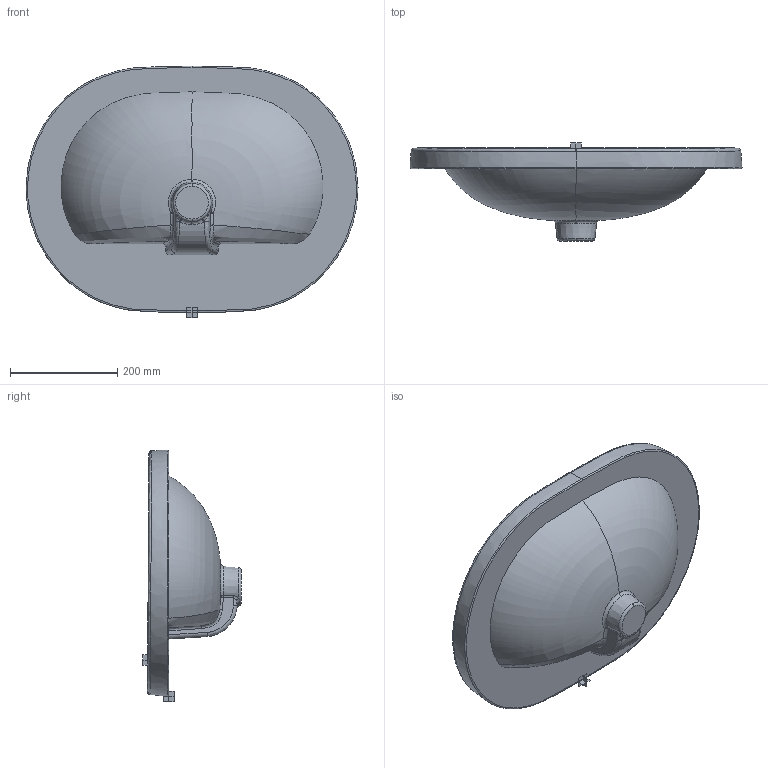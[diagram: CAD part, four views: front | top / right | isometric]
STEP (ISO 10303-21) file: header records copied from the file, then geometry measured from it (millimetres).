
FILE_DESCRIPTION((''),'2;1');
FILE_NAME('E5040_3DPL','2012-06-29T',('totevd'),('AMERICAN STANDARD B&K'),'PRO/ENGINEER BY PARAMETRIC TECHNOLOGY CORPORATION, 2009300','PRO/ENGINEER BY PARAMETRIC TECHNOLOGY CORPORATION, 2009300','');
FILE_SCHEMA(('CONFIG_CONTROL_DESIGN'));
Length unit declared in the file: millimetre
Products named in the file (1): E5040_3DPL
Bounding box: 619.68 x 183.32 x 469.93 mm (x, y, z)
Volume: 6089052.2 mm3; surface area: 669243.1 mm2
Topology: 1 solids, 7 shells, 89 faces, 244 edges, 164 vertices
Faces by surface type: bspline 68, plane 13, cylinder 5, torus 2, cone 1
Entity records: 30634 total; most frequent: CARTESIAN_POINT 28816, ORIENTED_EDGE 464, EDGE_CURVE 244, DIRECTION 206, VERTEX_POINT 164, B_SPLINE_CURVE_WITH_KNOTS 141, EDGE_LOOP 90, FACE_OUTER_BOUND 89
